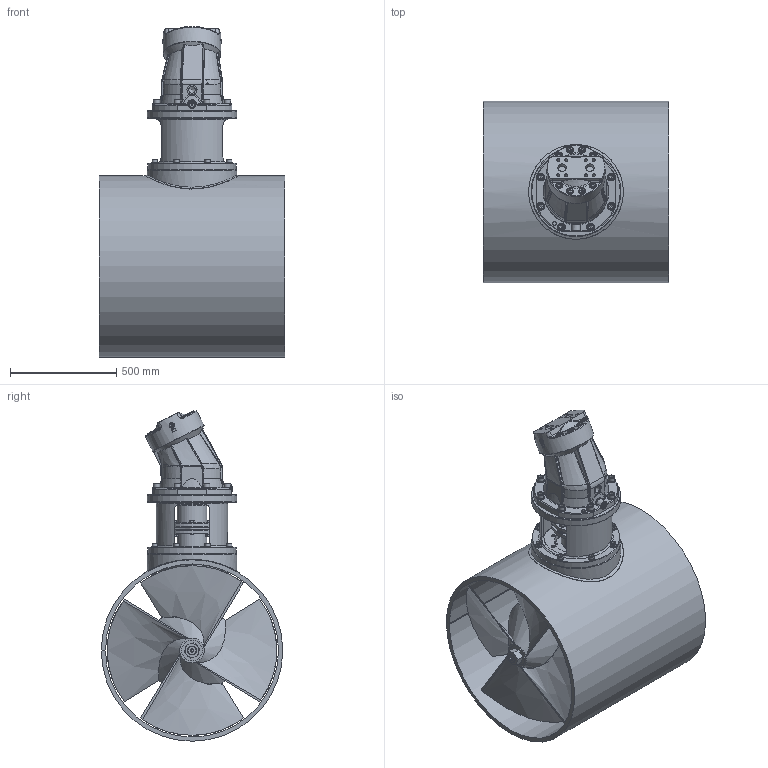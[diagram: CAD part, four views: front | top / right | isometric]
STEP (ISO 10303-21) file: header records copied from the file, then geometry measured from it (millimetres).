
FILE_DESCRIPTION(/* description */ (''),/* implementation_level */ '2;1');
FILE_NAME(/* name */ 'Q:\THRUSTERS\THRUSTER SALES & SUPPORT DOCS\THRUSTER Sales\H-T\H-0800-T\H-0800-T.stp',/* time_stamp */ '2020-03-04T15:44:02+00:00',/* author */ ('Jordan.Griffith'),/* organization */ (''),/* preprocessor_version */ 'ST-DEVELOPER v17',/* originating_system */ 'Autodesk Inventor 2019',/* authorisation */ '');
FILE_SCHEMA (('AUTOMOTIVE_DESIGN { 1 0 10303 214 3 1 1 }'));
Products named in the file (1): H-0800-T_Shrinkwrap_1
Bounding box: 870 x 852.79 x 1552.72 mm (x, y, z)
Volume: 128685929.8 mm3; surface area: 12648397.5 mm2
Topology: 83 solids, 83 shells, 2773 faces, 7435 edges, 4935 vertices
Faces by surface type: cylinder 1119, plane 818, cone 346, torus 255, bspline 216, sphere 19
Full cylindrical faces by diameter (mm): 4 x2, 4.917 x6, 5 x4, 6 x10, 6.5 x4, 7.95 x1, 8.5 x40, 10 x14, 10.25 x2, 10.5 x36, 10.8 x8, 11 x4, 14 x10, 16 x36, 16.5 x8, 17 x44, 17.29 x2, 17.3 x1, 17.5 x10, 19 x2, 20 x8, 20.5 x8, 21 x1, 22 x16, 22.22 x1, 23.75 x2, 24 x8, 25 x2, 30 x33, 31 x1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
Entity records: 115222 total; most frequent: CARTESIAN_POINT 43012, DIRECTION 14723, ORIENTED_EDGE 14630, EDGE_CURVE 7315, AXIS2_PLACEMENT_3D 6205, VERTEX_POINT 4935, CIRCLE 3603, EDGE_LOOP 3313
